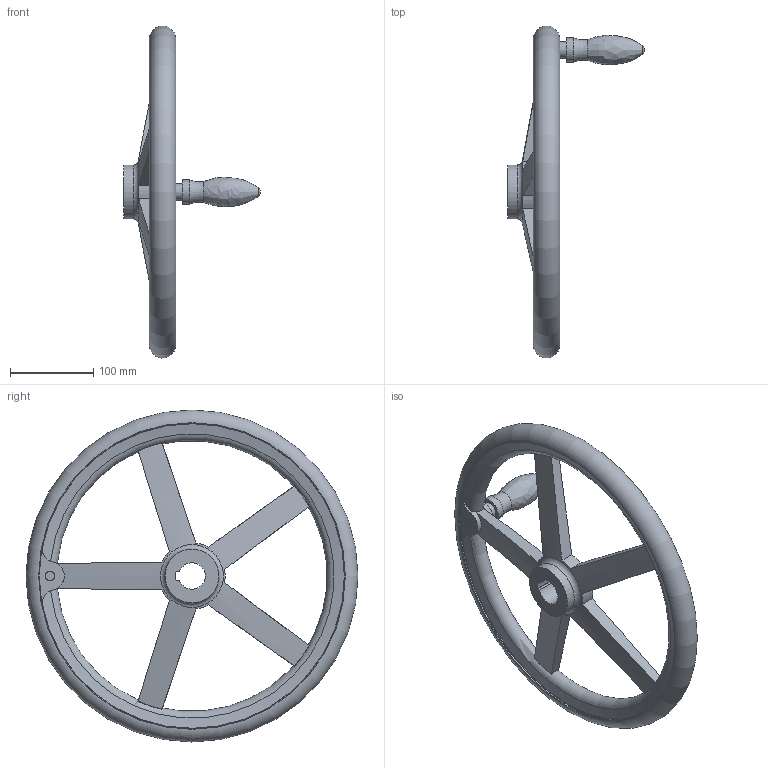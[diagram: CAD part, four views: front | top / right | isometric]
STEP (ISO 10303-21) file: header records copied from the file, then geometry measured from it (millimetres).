
FILE_DESCRIPTION( ( 'STEP AP203' ), '1' );
FILE_NAME( 'C:/Temp/Ganter_Step_05_03_2020/data/1_3/din_950/din_950_k/din_950_k_d/Handwheel DIN 950-AL-400-K32-D.stp', '2020-03-05T10:31:05', ( 'License CC BY-ND 4.0' ), ( 'CADENAS' ), ' ', 'PARTsolutions', ' ' );
FILE_SCHEMA( ( 'CONFIG_CONTROL_DESIGN' ) );
Length unit declared in the file: millimetre
Products named in the file (1): _Handwheel DIN 950-AL-400-K32-D
Bounding box: 165 x 399.9 x 399.9 mm (x, y, z)
Volume: 1433788.9 mm3; surface area: 210759.2 mm2
Topology: 1 solids, 1 shells, 66 faces, 191 edges, 123 vertices
Faces by surface type: cylinder 20, torus 19, plane 19, cone 6, bspline 1, sphere 1
Full cylindrical faces by diameter (mm): 20 x1, 29 x1, 65 x2, 368 x2
Entity records: 2650 total; most frequent: CARTESIAN_POINT 1041, ORIENTED_EDGE 330, DIRECTION 296, EDGE_CURVE 165, AXIS2_PLACEMENT_3D 133, VERTEX_POINT 119, EDGE_LOOP 94, FACE_OUTER_BOUND 81
